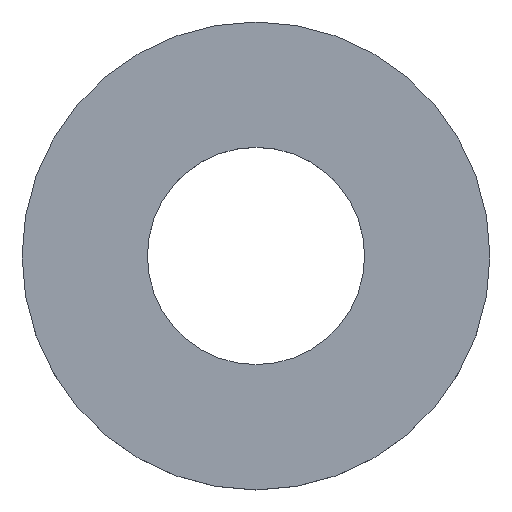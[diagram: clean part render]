
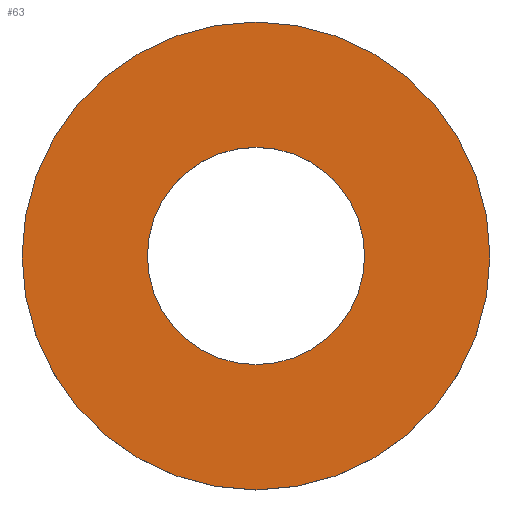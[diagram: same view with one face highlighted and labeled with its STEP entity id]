
A CAD part, top view. The second image highlights one B-rep face of the part: STEP entity #63.
In plain terms, the highlighted planar face has unit normal (0, 0, 1).
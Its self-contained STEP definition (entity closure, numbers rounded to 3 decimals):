
#15=FACE_BOUND('',#26,.T.);
#17=PLANE('',#85);
#21=FACE_OUTER_BOUND('',#25,.T.);
#25=EDGE_LOOP('',(#55));
#26=EDGE_LOOP('',(#56));
#33=CIRCLE('',#80,6.5);
#35=CIRCLE('',#83,14.);
#37=VERTEX_POINT('',#109);
#39=VERTEX_POINT('',#115);
#41=EDGE_CURVE('',#37,#37,#33,.T.);
#44=EDGE_CURVE('',#39,#39,#35,.T.);
#55=ORIENTED_EDGE('',*,*,#44,.T.);
#56=ORIENTED_EDGE('',*,*,#41,.T.);
#63=ADVANCED_FACE('',(#21,#15),#17,.T.);
#80=AXIS2_PLACEMENT_3D('',#110,#91,#92);
#83=AXIS2_PLACEMENT_3D('',#116,#98,#99);
#85=AXIS2_PLACEMENT_3D('',#120,#103,#104);
#91=DIRECTION('center_axis',(0.,0.,-1.));
#92=DIRECTION('ref_axis',(1.,0.,0.));
#98=DIRECTION('center_axis',(0.,0.,1.));
#99=DIRECTION('ref_axis',(1.,0.,0.));
#103=DIRECTION('center_axis',(0.,0.,1.));
#104=DIRECTION('ref_axis',(1.,0.,0.));
#109=CARTESIAN_POINT('',(-6.5,0.,2.5));
#110=CARTESIAN_POINT('Origin',(0.,0.,2.5));
#115=CARTESIAN_POINT('',(-14.,0.,2.5));
#116=CARTESIAN_POINT('Origin',(0.,0.,2.5));
#120=CARTESIAN_POINT('Origin',(0.,0.,2.5));
